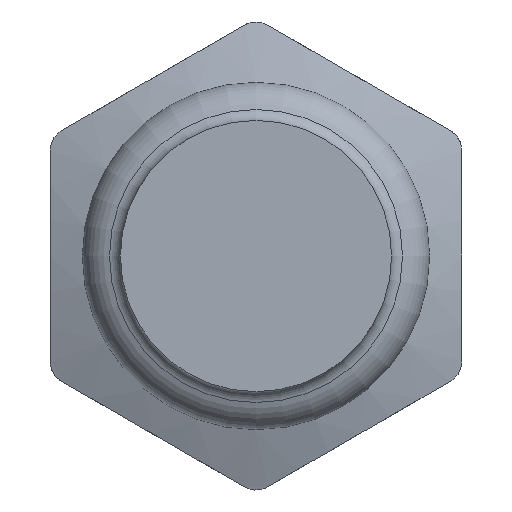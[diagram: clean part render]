
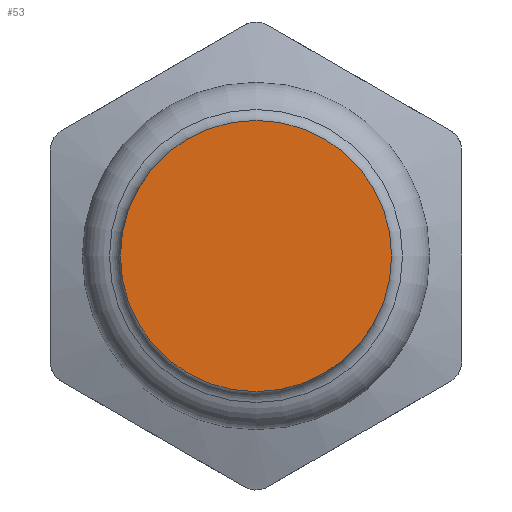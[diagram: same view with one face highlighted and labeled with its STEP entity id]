
A CAD part, front view. The second image highlights one B-rep face of the part: STEP entity #53.
In plain terms, the highlighted planar face has unit normal (0, -1, 0).
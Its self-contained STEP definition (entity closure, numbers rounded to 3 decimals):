
#53=ADVANCED_FACE('',(#78),#80,.T.);
#78=FACE_BOUND('',#79,.T.);
#79=EDGE_LOOP('',(#275));
#80=PLANE('',#81);
#81=AXIS2_PLACEMENT_3D('',#82,#83,#84);
#82=CARTESIAN_POINT('',(0.,0.,0.));
#83=DIRECTION('',(0.,-1.,0.));
#84=DIRECTION('',(0.,0.,1.));
#275=ORIENTED_EDGE('',*,*,#373,.F.);
#373=EDGE_CURVE('',#422,#422,#423,.T.);
#422=VERTEX_POINT('',#508);
#423=CIRCLE('',#509,8.9);
#508=CARTESIAN_POINT('',(0.,0.,8.9));
#509=AXIS2_PLACEMENT_3D('',#510,#511,#512);
#510=CARTESIAN_POINT('',(0.,0.,0.));
#511=DIRECTION('',(0.,1.,0.));
#512=DIRECTION('',(0.,0.,1.));
